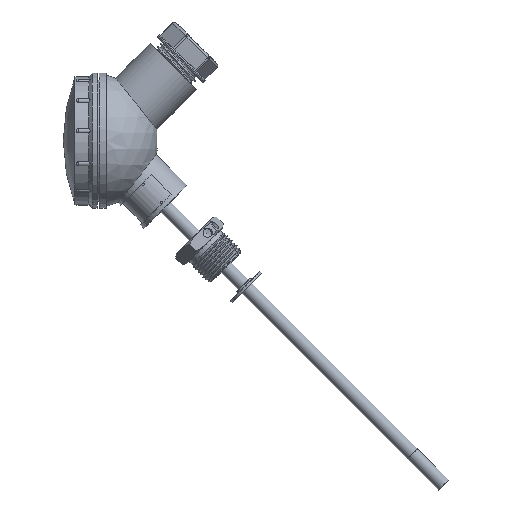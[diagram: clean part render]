
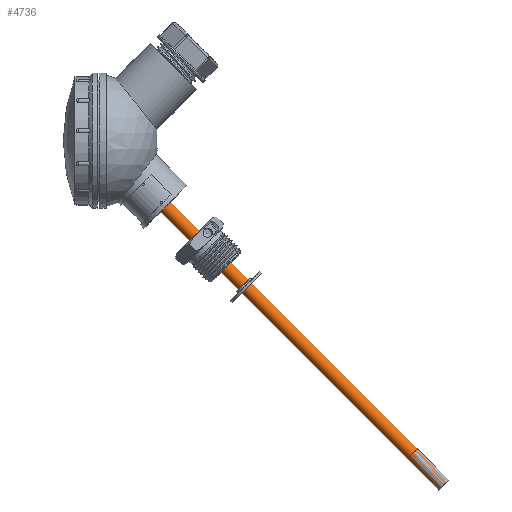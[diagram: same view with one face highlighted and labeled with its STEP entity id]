
A CAD part, left-side view. The second image highlights one B-rep face of the part: STEP entity #4736.
In plain terms, the highlighted cylindrical face has radius 3 mm (diameter 6 mm), a full revolution.
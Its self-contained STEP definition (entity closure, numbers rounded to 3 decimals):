
#4736=ADVANCED_FACE('',(#18032,#18034),#18036,.T.);
#18032=FACE_OUTER_BOUND('',#18033,.T.);
#18033=EDGE_LOOP('',(#20871));
#18034=FACE_OUTER_BOUND('',#18035,.T.);
#18035=EDGE_LOOP('',(#20872));
#18036=CYLINDRICAL_SURFACE('',#18037,3.);
#18037=AXIS2_PLACEMENT_3D('',#18038,#18039,#18040);
#18038=CARTESIAN_POINT('',(0.,0.,-51.));
#18039=DIRECTION('',(0.,0.,1.));
#18040=DIRECTION('',(1.,0.,0.));
#20871=ORIENTED_EDGE('',*,*,#22044,.F.);
#20872=ORIENTED_EDGE('',*,*,#22045,.T.);
#22044=EDGE_CURVE('',#23787,#23787,#23788,.T.);
#22045=EDGE_CURVE('',#23789,#23789,#23790,.T.);
#23787=VERTEX_POINT('',#85236);
#23788=CIRCLE('',#85237,3.);
#23789=VERTEX_POINT('',#85241);
#23790=CIRCLE('',#85242,3.);
#85236=CARTESIAN_POINT('',(3.,0.,120.8));
#85237=AXIS2_PLACEMENT_3D('',#85238,#85239,#85240);
#85238=CARTESIAN_POINT('',(0.,0.,120.8));
#85239=DIRECTION('',(0.,0.,1.));
#85240=DIRECTION('',(1.,0.,0.));
#85241=CARTESIAN_POINT('',(3.,0.,-51.));
#85242=AXIS2_PLACEMENT_3D('',#85243,#85244,#85245);
#85243=CARTESIAN_POINT('',(0.,0.,-51.));
#85244=DIRECTION('',(0.,0.,1.));
#85245=DIRECTION('',(1.,0.,0.));
